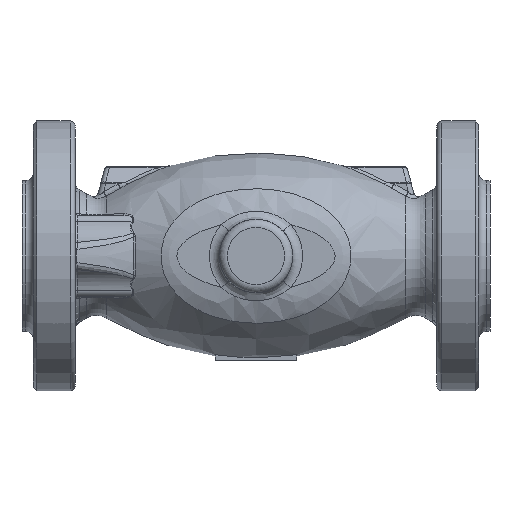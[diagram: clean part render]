
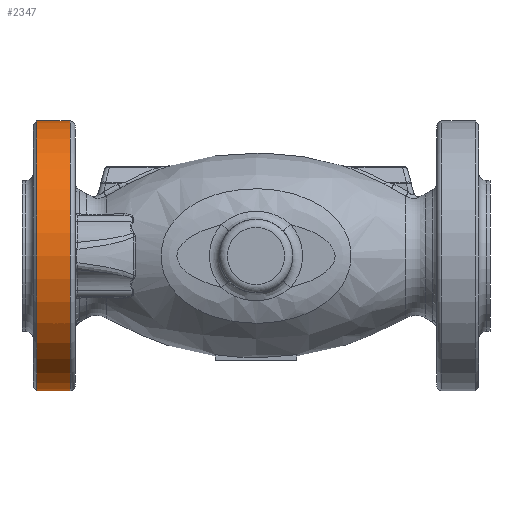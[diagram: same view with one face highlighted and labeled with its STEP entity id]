
A CAD part, front view. The second image highlights one B-rep face of the part: STEP entity #2347.
In plain terms, the highlighted cylindrical face has radius 82.5 mm (diameter 165 mm), a full revolution.
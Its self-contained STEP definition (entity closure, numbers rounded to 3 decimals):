
#1382=CYLINDRICAL_SURFACE('',#9717,82.5);
#2347=ADVANCED_FACE('',(#3067,#3068),#1382,.T.);
#3067=FACE_BOUND('',#3600,.T.);
#3068=FACE_BOUND('',#3601,.T.);
#3600=EDGE_LOOP('',(#4976));
#3601=EDGE_LOOP('',(#4977));
#4976=ORIENTED_EDGE('',*,*,#7905,.T.);
#4977=ORIENTED_EDGE('',*,*,#7910,.T.);
#6955=VERTEX_POINT('',#14254);
#6960=VERTEX_POINT('',#14267);
#7905=EDGE_CURVE('',#6955,#6955,#8938,.T.);
#7910=EDGE_CURVE('',#6960,#6960,#8943,.T.);
#8938=CIRCLE('',#9708,82.5);
#8943=CIRCLE('',#9716,82.5);
#9708=AXIS2_PLACEMENT_3D('',#14253,#11397,#11398);
#9716=AXIS2_PLACEMENT_3D('',#14266,#11413,#11414);
#9717=AXIS2_PLACEMENT_3D('',#14268,#11415,#11416);
#11397=DIRECTION('',(1.,0.,0.));
#11398=DIRECTION('',(0.,0.,1.));
#11413=DIRECTION('',(-1.,0.,0.));
#11414=DIRECTION('',(0.,0.,-1.));
#11415=DIRECTION('',(-1.,0.,0.));
#11416=DIRECTION('',(0.,0.,1.));
#14253=CARTESIAN_POINT('',(-134.,0.,0.));
#14254=CARTESIAN_POINT('',(-134.,0.,82.5));
#14266=CARTESIAN_POINT('',(-113.6,0.,0.));
#14267=CARTESIAN_POINT('',(-113.6,0.,-82.5));
#14268=CARTESIAN_POINT('',(0.,0.,0.));
